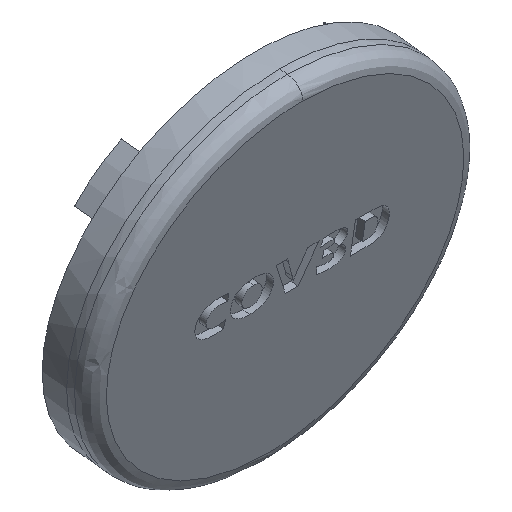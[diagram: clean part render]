
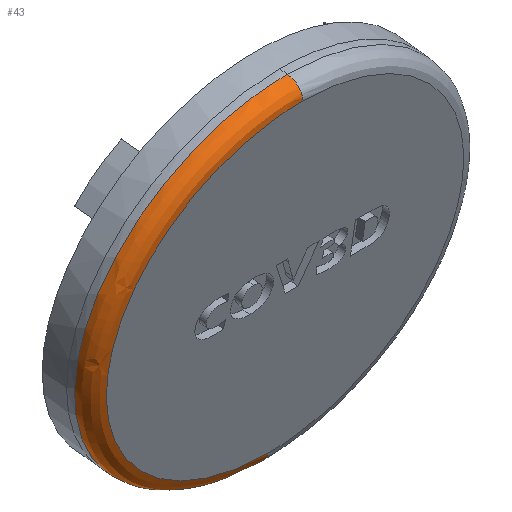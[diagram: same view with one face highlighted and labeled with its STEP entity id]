
A CAD part, isometric view. The second image highlights one B-rep face of the part: STEP entity #43.
In plain terms, the highlighted free-form (B-spline) face has degree [2, 2] with [3, 5] control points.
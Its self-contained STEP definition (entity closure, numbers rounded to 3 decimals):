
#43=ADVANCED_FACE('',(#110),#1043,.T.);
#110=FACE_OUTER_BOUND('',#186,.T.);
#186=EDGE_LOOP('',(#321,#322,#323,#324));
#321=ORIENTED_EDGE('',*,*,#577,.F.);
#322=ORIENTED_EDGE('',*,*,#578,.T.);
#323=ORIENTED_EDGE('',*,*,#579,.T.);
#324=ORIENTED_EDGE('',*,*,#713,.F.);
#577=EDGE_CURVE('',#888,#977,#727,.T.);
#578=EDGE_CURVE('',#888,#889,#728,.T.);
#579=EDGE_CURVE('',#889,#978,#729,.T.);
#713=EDGE_CURVE('',#977,#978,#746,.T.);
#727=(
BOUNDED_CURVE()
B_SPLINE_CURVE(2,(#2068,#2069,#2070,#2071,#2072),.UNSPECIFIED.,.F.,.F.)
B_SPLINE_CURVE_WITH_KNOTS((3,2,3),(0.,43.396,86.792),
 .UNSPECIFIED.)
CURVE()
GEOMETRIC_REPRESENTATION_ITEM()
RATIONAL_B_SPLINE_CURVE((1.,0.707,1.,0.707,1.))
REPRESENTATION_ITEM('')
);
#728=(
BOUNDED_CURVE()
B_SPLINE_CURVE(2,(#2073,#2074,#2075),.UNSPECIFIED.,.F.,.F.)
B_SPLINE_CURVE_WITH_KNOTS((3,3),(0.,3.727),.UNSPECIFIED.)
CURVE()
GEOMETRIC_REPRESENTATION_ITEM()
RATIONAL_B_SPLINE_CURVE((1.,0.707,1.))
REPRESENTATION_ITEM('')
);
#729=(
BOUNDED_CURVE()
B_SPLINE_CURVE(2,(#2076,#2077,#2078,#2079,#2080),.UNSPECIFIED.,.F.,.F.)
B_SPLINE_CURVE_WITH_KNOTS((3,2,3),(0.,43.396,86.792),
 .UNSPECIFIED.)
CURVE()
GEOMETRIC_REPRESENTATION_ITEM()
RATIONAL_B_SPLINE_CURVE((1.,0.707,1.,0.707,1.))
REPRESENTATION_ITEM('')
);
#746=(
BOUNDED_CURVE()
B_SPLINE_CURVE(2,(#2816,#2817,#2818),.UNSPECIFIED.,.F.,.F.)
B_SPLINE_CURVE_WITH_KNOTS((3,3),(0.,3.727),.UNSPECIFIED.)
CURVE()
GEOMETRIC_REPRESENTATION_ITEM()
RATIONAL_B_SPLINE_CURVE((1.,0.707,1.))
REPRESENTATION_ITEM('')
);
#888=VERTEX_POINT('',#1920);
#889=VERTEX_POINT('',#1921);
#977=VERTEX_POINT('',#2009);
#978=VERTEX_POINT('',#2010);
#1043=(
BOUNDED_SURFACE()
B_SPLINE_SURFACE(2,2,((#1190,#1191,#1192,#1193,#1194),(#1195,#1196,#1197,
#1198,#1199),(#1200,#1201,#1202,#1203,#1204)),.UNSPECIFIED.,.F.,.F.,.F.)
B_SPLINE_SURFACE_WITH_KNOTS((3,3),(3,2,3),(0.,3.727),(0.,43.396,
86.792),.UNSPECIFIED.)
GEOMETRIC_REPRESENTATION_ITEM()
RATIONAL_B_SPLINE_SURFACE(((1.,0.707,1.,0.707,1.),
(0.707,0.5,0.707,0.5,
0.707),(1.,0.707,1.,0.707,1.)))
REPRESENTATION_ITEM('')
SURFACE()
);
#1190=CARTESIAN_POINT('',(-0.114,-104.682,-16.585));
#1191=CARTESIAN_POINT('',(-27.596,-104.649,-16.582));
#1192=CARTESIAN_POINT('',(-27.596,-107.338,8.361));
#1193=CARTESIAN_POINT('',(-27.596,-110.028,33.303));
#1194=CARTESIAN_POINT('',(-0.114,-110.061,33.3));
#1195=CARTESIAN_POINT('',(-0.116,-107.042,-16.84));
#1196=CARTESIAN_POINT('',(-27.599,-107.009,-16.836));
#1197=CARTESIAN_POINT('',(-27.599,-109.698,8.106));
#1198=CARTESIAN_POINT('',(-27.599,-112.387,33.049));
#1199=CARTESIAN_POINT('',(-0.116,-112.42,33.045));
#1200=CARTESIAN_POINT('',(-0.116,-107.254,-14.867));
#1201=CARTESIAN_POINT('',(-25.425,-107.224,-14.863));
#1202=CARTESIAN_POINT('',(-25.425,-109.7,8.106));
#1203=CARTESIAN_POINT('',(-25.425,-112.177,31.076));
#1204=CARTESIAN_POINT('',(-0.116,-112.207,31.072));
#1920=CARTESIAN_POINT('',(-0.114,-104.682,-16.585));
#1921=CARTESIAN_POINT('',(-0.116,-107.254,-14.867));
#2009=CARTESIAN_POINT('',(-0.114,-110.061,33.3));
#2010=CARTESIAN_POINT('',(-0.116,-112.207,31.072));
#2068=CARTESIAN_POINT('',(-0.114,-104.682,-16.585));
#2069=CARTESIAN_POINT('',(-27.596,-104.649,-16.582));
#2070=CARTESIAN_POINT('',(-27.596,-107.338,8.361));
#2071=CARTESIAN_POINT('',(-27.596,-110.028,33.303));
#2072=CARTESIAN_POINT('',(-0.114,-110.061,33.3));
#2073=CARTESIAN_POINT('',(-0.114,-104.682,-16.585));
#2074=CARTESIAN_POINT('',(-0.116,-107.042,-16.84));
#2075=CARTESIAN_POINT('',(-0.116,-107.254,-14.867));
#2076=CARTESIAN_POINT('',(-0.116,-107.254,-14.867));
#2077=CARTESIAN_POINT('',(-25.425,-107.224,-14.863));
#2078=CARTESIAN_POINT('',(-25.425,-109.7,8.106));
#2079=CARTESIAN_POINT('',(-25.425,-112.177,31.076));
#2080=CARTESIAN_POINT('',(-0.116,-112.207,31.072));
#2816=CARTESIAN_POINT('',(-0.114,-110.061,33.3));
#2817=CARTESIAN_POINT('',(-0.116,-112.42,33.045));
#2818=CARTESIAN_POINT('',(-0.116,-112.207,31.072));
